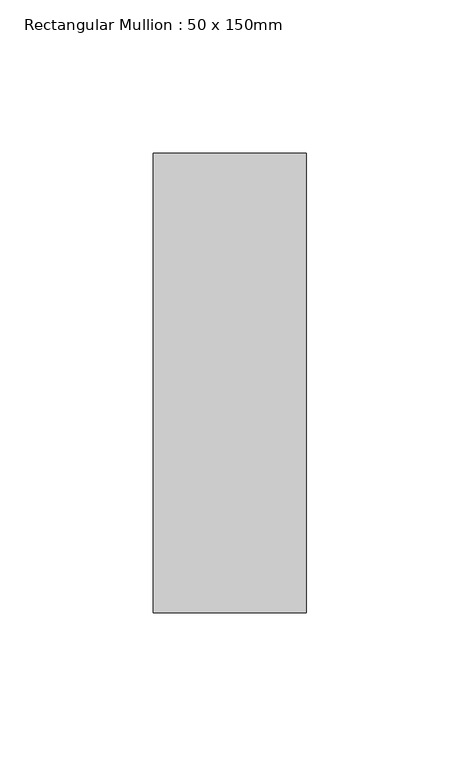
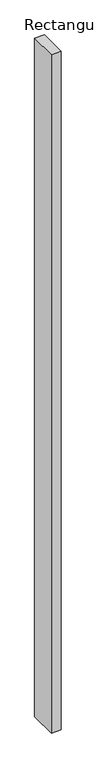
"""IFC4 building model written with IfcOpenShell, lengths in millimetres: member geometry, Rectangular Mullion : 50 x 150mm."""

from ifc_helpers import new_model, si_unit, frame, origin, place, context, project, spatial, polyline, outline, extrude, source, transform, mapped, element, save


def rectangular_mullion_50_x_150mm_a5a25251(model_context):
    return source(origin(), model_context, "Body", "SweptSolid", [
        extrude(outline(polyline([(0.0, 75.0), (0.0, -75.0), (-50.0, -75.0), (-50.0, 75.0), (0.0, 75.0)])), frame((0.0, 0.0, -3724.5130889), z_axis=(0.0, 0.0, 1.0), x_axis=(1.0, 0.0, 0.0)), (0.0, 0.0, 1.0), 3724.5130889),
    ])


if __name__ == "__main__":
    model = new_model("IFC4")
    model_context = context("Model", 3, world=origin())
    ifc_project = project(units=[si_unit("LENGTHUNIT", "METRE", prefix="MILLI")], contexts=[model_context])
    site = spatial("IfcSite", under=ifc_project)
    building = spatial("IfcBuilding", under=site)
    placement = place(None, origin())
    rectangular_mullion_50_x_150mm_shape = rectangular_mullion_50_x_150mm_a5a25251(model_context)
    element("IfcMember", 1, ObjectType="Rectangular Mullion : 50 x 150mm", at=placement, inside=building, context=model_context, shape_type="MappedRepresentation", body=[
        mapped(rectangular_mullion_50_x_150mm_shape, transform((0.0, 0.0, 0.0), x_axis=(1.0, 0.0, 0.0), y_axis=(0.0, 1.0, 0.0), z_axis=(0.0, 0.0, 1.0))),
    ])
    save(model, "model.ifc")
